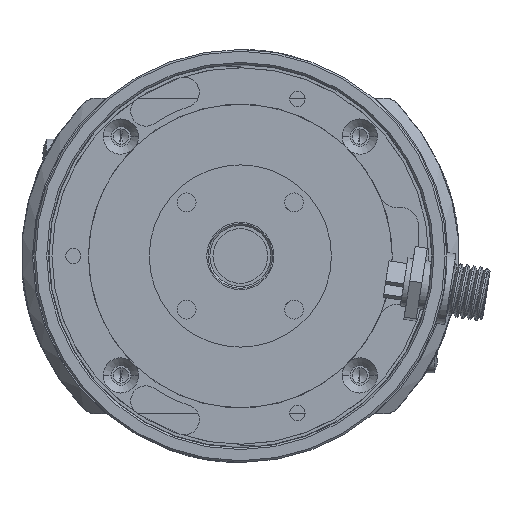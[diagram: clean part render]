
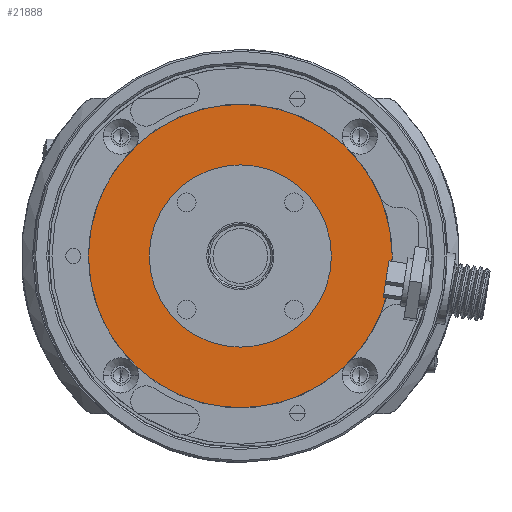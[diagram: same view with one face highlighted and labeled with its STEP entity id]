
A CAD part, front view. The second image highlights one B-rep face of the part: STEP entity #21888.
In plain terms, the highlighted planar face has unit normal (0, -1, 0).
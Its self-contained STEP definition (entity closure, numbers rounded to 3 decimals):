
#19699=CARTESIAN_POINT('',(0.,-2.2,0.));
#19700=DIRECTION('',(0.,-1.,0.));
#19701=DIRECTION('',(0.,0.,-1.));
#19702=AXIS2_PLACEMENT_3D('',#19699,#19700,#19701);
#19704=CARTESIAN_POINT('',(0.,-2.2,0.));
#19705=DIRECTION('',(0.,-1.,0.));
#19706=DIRECTION('',(0.,0.,1.));
#19707=AXIS2_PLACEMENT_3D('',#19704,#19705,#19706);
#19709=CARTESIAN_POINT('',(0.,-2.2,0.));
#19710=DIRECTION('',(0.,1.,0.));
#19711=DIRECTION('',(0.,0.,-1.));
#19712=AXIS2_PLACEMENT_3D('',#19709,#19710,#19711);
#19714=CARTESIAN_POINT('',(0.,-2.2,0.));
#19715=DIRECTION('',(0.,1.,0.));
#19716=DIRECTION('',(0.,0.,1.));
#19717=AXIS2_PLACEMENT_3D('',#19714,#19715,#19716);
#20234=CARTESIAN_POINT('',(0.,-2.2,25.));
#20236=VERTEX_POINT('',#20234);
#20310=CARTESIAN_POINT('',(0.,-2.2,-15.));
#20312=VERTEX_POINT('',#20310);
#20387=CARTESIAN_POINT('',(0.,-2.2,-25.));
#20388=VERTEX_POINT('',#20387);
#20429=CARTESIAN_POINT('',(0.,-2.2,15.));
#20430=VERTEX_POINT('',#20429);
#21872=CARTESIAN_POINT('',(0.,-2.2,0.));
#21873=DIRECTION('',(0.,-1.,0.));
#21874=DIRECTION('',(0.,0.,-1.));
#21875=AXIS2_PLACEMENT_3D('',#21872,#21873,#21874);
#21876=PLANE('',#21875);
#21878=ORIENTED_EDGE('',*,*,#21877,.F.);
#21879=ORIENTED_EDGE('',*,*,#21853,.F.);
#21880=EDGE_LOOP('',(#21878,#21879));
#21881=FACE_OUTER_BOUND('',#21880,.F.);
#21883=ORIENTED_EDGE('',*,*,#21882,.F.);
#21885=ORIENTED_EDGE('',*,*,#21884,.F.);
#21886=EDGE_LOOP('',(#21883,#21885));
#21887=FACE_BOUND('',#21886,.F.);
#21888=ADVANCED_FACE('',(#21881,#21887),#21876,.T.);
#19703=CIRCLE('',#19702,25.);
#19708=CIRCLE('',#19707,25.);
#19713=CIRCLE('',#19712,15.);
#19718=CIRCLE('',#19717,15.);
#21853=EDGE_CURVE('',#20236,#20388,#19708,.T.);
#21877=EDGE_CURVE('',#20388,#20236,#19703,.T.);
#21882=EDGE_CURVE('',#20312,#20430,#19713,.T.);
#21884=EDGE_CURVE('',#20430,#20312,#19718,.T.);
